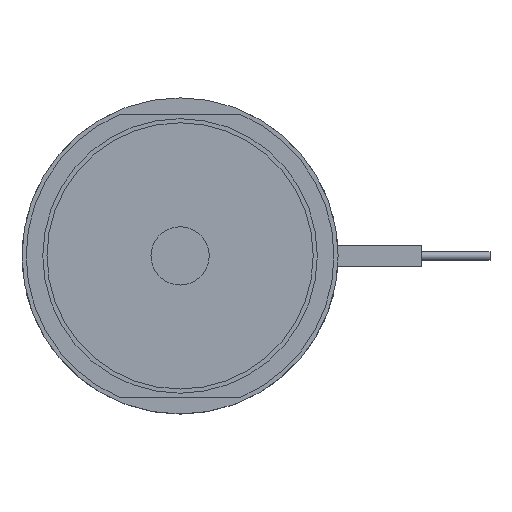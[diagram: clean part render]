
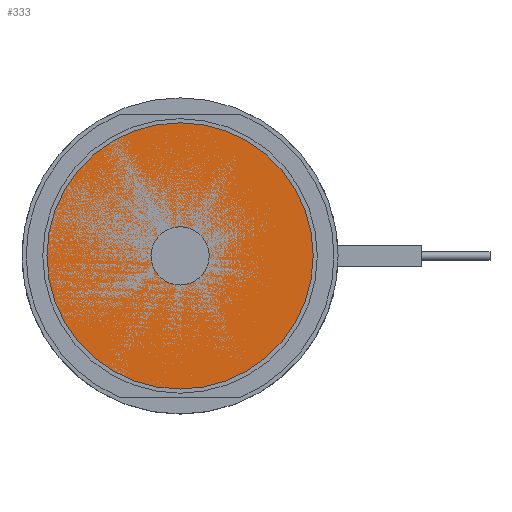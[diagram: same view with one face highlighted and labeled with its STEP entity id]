
A CAD part, top view. The second image highlights one B-rep face of the part: STEP entity #333.
In plain terms, the highlighted planar face has unit normal (0, 0, 1).
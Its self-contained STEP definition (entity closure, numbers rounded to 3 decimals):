
#215=PLANE('',#1120);
#262=FACE_OUTER_BOUND('',#507,.T.);
#333=ADVANCED_FACE('',(#262,#424),#215,.T.);
#424=FACE_BOUND('',#508,.T.);
#507=EDGE_LOOP('',(#674));
#508=EDGE_LOOP('',(#675));
#674=ORIENTED_EDGE('',*,*,#947,.T.);
#675=ORIENTED_EDGE('',*,*,#948,.F.);
#842=VERTEX_POINT('',#1724);
#843=VERTEX_POINT('',#1727);
#947=EDGE_CURVE('',#842,#842,#1021,.T.);
#948=EDGE_CURVE('',#843,#843,#1022,.T.);
#1021=CIRCLE('',#1117,16.);
#1022=CIRCLE('',#1119,3.5);
#1117=AXIS2_PLACEMENT_3D('',#1723,#1350,#1351);
#1119=AXIS2_PLACEMENT_3D('',#1726,#1354,#1355);
#1120=AXIS2_PLACEMENT_3D('',#1728,#1356,#1357);
#1350=DIRECTION('',(0.,0.,1.));
#1351=DIRECTION('',(1.,0.,0.));
#1354=DIRECTION('',(0.,0.,1.));
#1355=DIRECTION('',(1.,0.,0.));
#1356=DIRECTION('',(0.,0.,1.));
#1357=DIRECTION('',(1.,0.,0.));
#1723=CARTESIAN_POINT('',(0.,0.,0.));
#1724=CARTESIAN_POINT('',(16.,0.,0.));
#1726=CARTESIAN_POINT('',(0.,0.,0.));
#1727=CARTESIAN_POINT('',(3.5,0.,0.));
#1728=CARTESIAN_POINT('',(-3.5,0.,0.));
